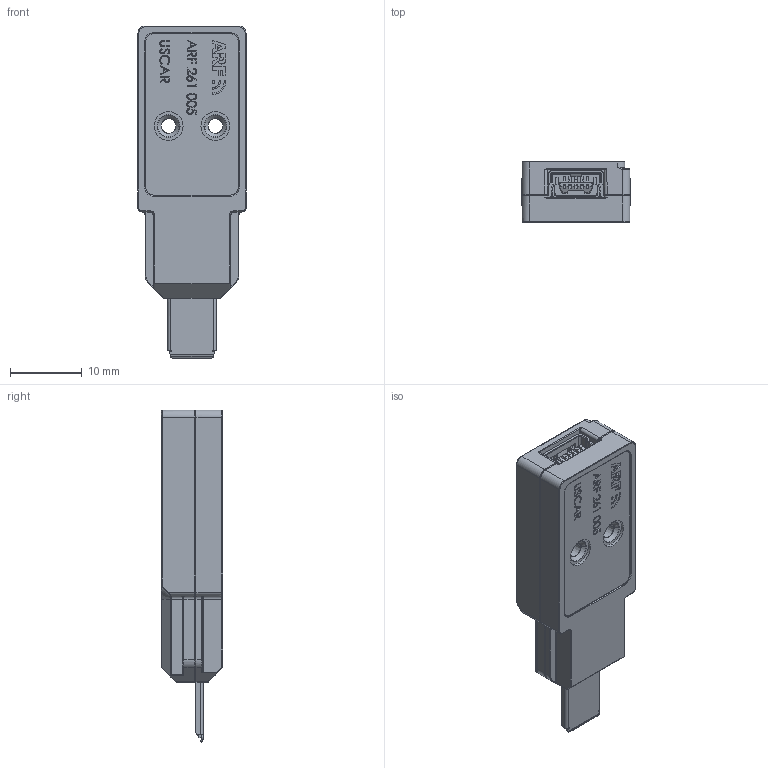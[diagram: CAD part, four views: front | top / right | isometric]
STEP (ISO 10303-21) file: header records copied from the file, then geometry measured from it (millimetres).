
FILE_DESCRIPTION (( 'STEP AP214' ), '1' );
FILE_NAME ('ARF 261 005 USCAR.STEP', '2024-05-03T13:37:06', ( '' ), ( '' ), 'SwSTEP 2.0', 'SolidWorks 2015', '' );
FILE_SCHEMA (( 'AUTOMOTIVE_DESIGN' ));
Length unit declared in the file: millimetre
Products named in the file (11): 8020_018-USCAR-v3-capot; 8020_136; ARF 261 005 USCAR; 8020_210-C-moulage; 8020_089; 8020_211-D-moulage; 67503-1020; 8020_809; 8020_184-moule; 8020_201; 8020_017-USCAR-v3-capot
Assembly tree (15 placements, depth 3):
  ARF 261 005 USCAR
    8020_089
      8020_201
      8020_809
      67503-1020
      8020_136  x5
    8020_017-USCAR-v3-capot
      8020_210-C-moulage
      8020_184-moule
    8020_018-USCAR-v3-capot
      8020_211-D-moulage
      8020_184-moule
Bounding box: 15.03 x 8.5 x 46.16 mm (x, y, z)
Volume: 3615.1 mm3; surface area: 6536.1 mm2
Topology: 12 solids, 12 shells, 3609 faces, 9155 edges, 5661 vertices
Faces by surface type: plane 1269, cylinder 1052, bspline 882, torus 187, sphere 124, cone 95
Entity records: 113951 total; most frequent: CARTESIAN_POINT 46311, ORIENTED_EDGE 15080, DIRECTION 12218, EDGE_CURVE 7540, VERTEX_POINT 4603, AXIS2_PLACEMENT_3D 4342, VECTOR 3534, LINE 3534
